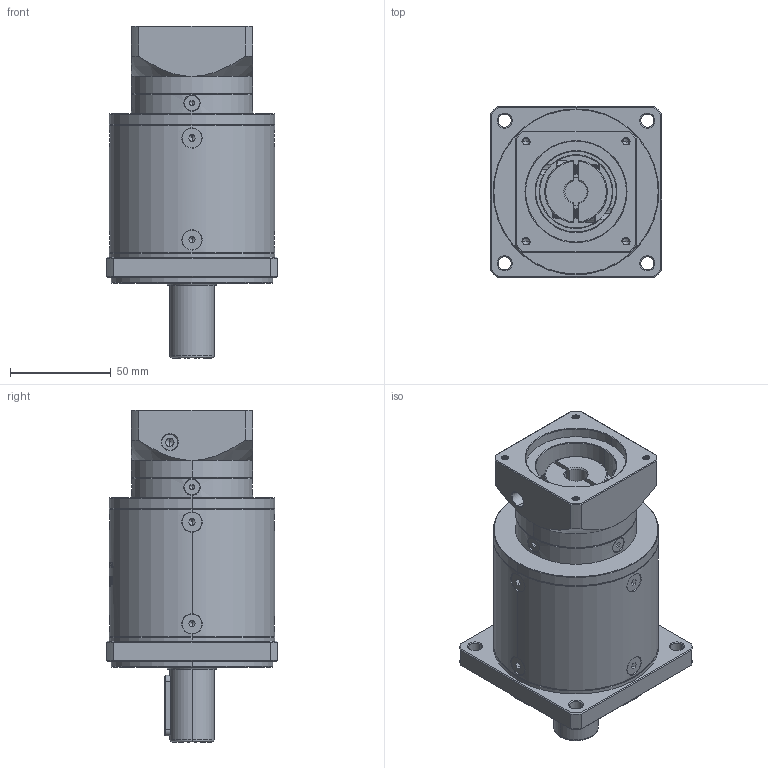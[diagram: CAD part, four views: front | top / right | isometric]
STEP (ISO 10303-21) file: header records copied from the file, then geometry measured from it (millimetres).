
FILE_DESCRIPTION (( 'STEP AP214' ), '1' );
FILE_NAME ('ZF80-D22-L3-11-50-70-M4.step', '2022-05-08T09:27:19', ( '' ), ( 'Microsoft' ), 'SwSTEP 2.0', 'SolidWorks 2016', '' );
FILE_SCHEMA (( 'AUTOMOTIVE_DESIGN' ));
Length unit declared in the file: millimetre
Products named in the file (1): ZF80-D22-L3-11-50-70-M4
Bounding box: 85 x 85 x 164.5 mm (x, y, z)
Volume: 575088.5 mm3; surface area: 72911.9 mm2
Topology: 18 solids, 18 shells, 2009 faces, 5257 edges, 3344 vertices
Faces by surface type: plane 948, cylinder 393, bspline 328, cone 326, torus 14
Entity records: 105778 total; most frequent: CARTESIAN_POINT 37662, ORIENTED_EDGE 10438, DIRECTION 8342, EDGE_CURVE 5219, VERTEX_POINT 3344, VECTOR 2806, LINE 2806, AXIS2_PLACEMENT_3D 2768
